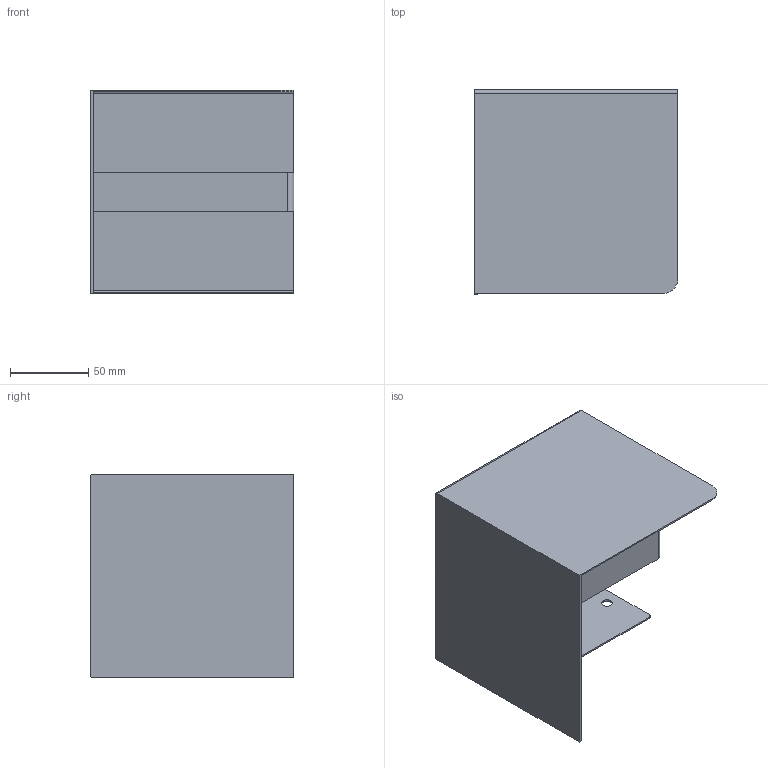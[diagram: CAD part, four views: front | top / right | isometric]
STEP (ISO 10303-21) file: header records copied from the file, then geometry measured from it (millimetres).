
FILE_DESCRIPTION (( 'STEP AP203' ), '1' );
FILE_NAME ('Uchwyt na papier CUBO.STEP', '2022-03-28T12:33:25', ( '' ), ( '' ), 'SwSTEP 2.0', 'SolidWorks 2021', '' );
FILE_SCHEMA (( 'CONFIG_CONTROL_DESIGN' ));
Length unit declared in the file: millimetre
Products named in the file (1): Uchwyt na papier CUBO
Bounding box: 130 x 130 x 130 mm (x, y, z)
Volume: 81990.6 mm3; surface area: 124964.2 mm2
Topology: 1 solids, 1 shells, 36 faces, 91 edges, 58 vertices
Faces by surface type: plane 22, cylinder 14
Entity records: 1164 total; most frequent: DIRECTION 193, CARTESIAN_POINT 186, ORIENTED_EDGE 182, EDGE_CURVE 91, AXIS2_PLACEMENT_3D 65, VECTOR 63, LINE 63, VERTEX_POINT 58
